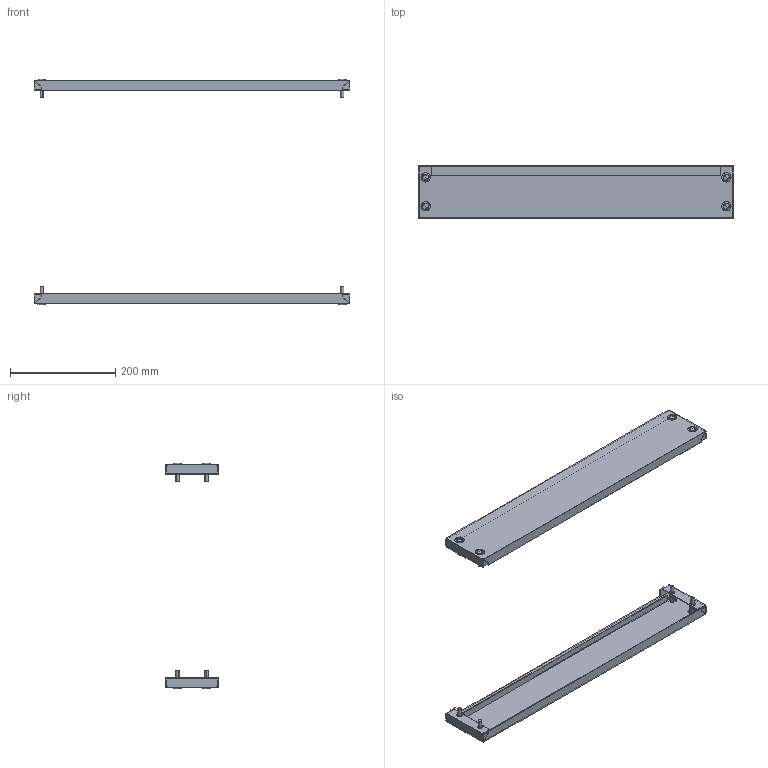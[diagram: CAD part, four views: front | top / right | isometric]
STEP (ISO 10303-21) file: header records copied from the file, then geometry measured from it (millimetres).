
FILE_DESCRIPTION (( 'STEP AP203' ), '1' );
FILE_NAME ('R5FZ6-450.STEP', '2025-06-18T08:38:11', ( '' ), ( '' ), 'SwSTEP 2.0', 'SolidWorks 2022', '' );
FILE_SCHEMA (( 'CONFIG_CONTROL_DESIGN' ));
Length unit declared in the file: millimetre
Products named in the file (5): RB.1055.00.00.0 simple_-02 (600); Plug_11.5-13Д18ЧК_-00; M6x16 DIN 912 HX cl.4,8 Zinc_stright; R5FZ6-450; 6 DIN 6798 A Zinc
Assembly tree (26 placements, depth 2):
  R5FZ6-450
    RB.1055.00.00.0 simple_-02 (600)  x2
    M6x16 DIN 912 HX cl.4,8 Zinc_stright  x8
    6 DIN 6798 A Zinc  x8
    Plug_11.5-13Д18ЧК_-00  x8
Bounding box: 599 x 100.05 x 428.5 mm (x, y, z)
Volume: 294956.8 mm3; surface area: 400063.7 mm2
Topology: 26 solids, 26 shells, 1196 faces, 3456 edges, 2112 vertices
Faces by surface type: plane 700, bspline 208, cylinder 128, cone 96, torus 48, sphere 16
Entity records: 9921 total; most frequent: CARTESIAN_POINT 2626, ORIENTED_EDGE 1352, DIRECTION 1188, EDGE_CURVE 676, LINE 448, VECTOR 448, VERTEX_POINT 444, AXIS2_PLACEMENT_3D 370
